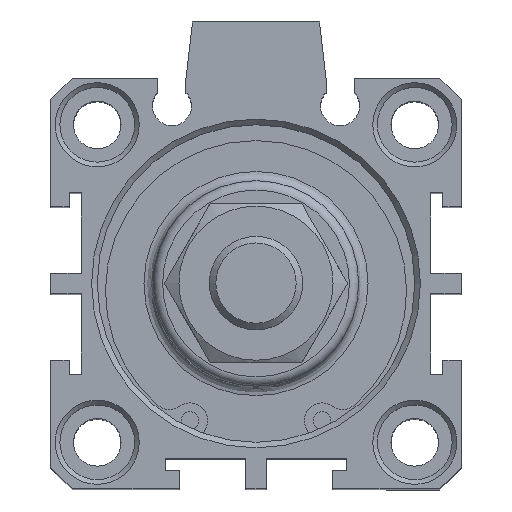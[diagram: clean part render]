
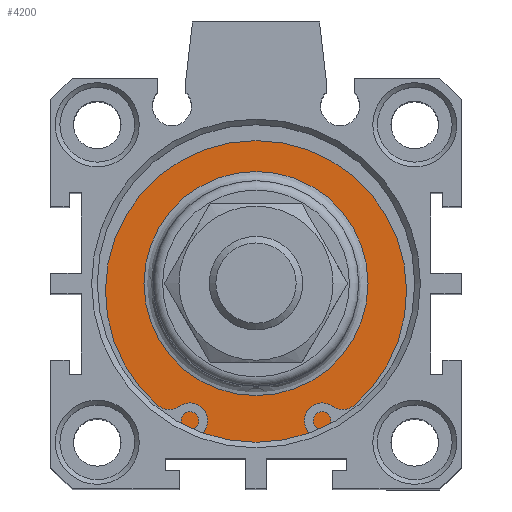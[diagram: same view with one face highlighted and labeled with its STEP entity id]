
A CAD part, top view. The second image highlights one B-rep face of the part: STEP entity #4200.
In plain terms, the highlighted planar face has unit normal (0, 0, 1).
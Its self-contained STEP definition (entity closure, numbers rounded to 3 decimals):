
#4149=CARTESIAN_POINT('',(2.273,12.598,60.8));
#4150=VERTEX_POINT('',#4149);
#4151=CARTESIAN_POINT('',(2.273,0.598,60.8));
#4152=DIRECTION('',(0.0,0.0,1.0));
#4153=DIRECTION('',(0.0,-1.0,0.0));
#4154=AXIS2_PLACEMENT_3D('',#4151,#4152,#4153);
#4155=CIRCLE('',#4154,12.);
#4156=EDGE_CURVE('',#4150,#4150,#4155,.T.);
#4181=CARTESIAN_POINT('',(2.273,14.598,60.8));
#4182=DIRECTION('',(0.0,0.0,1.0));
#4183=DIRECTION('',(1.0,0.0,0.0));
#4184=AXIS2_PLACEMENT_3D('',#4181,#4182,#4183);
#4185=PLANE('',#4184);
#4186=CARTESIAN_POINT('',(2.273,17.598,60.8));
#4187=VERTEX_POINT('',#4186);
#4188=CARTESIAN_POINT('',(2.273,0.598,60.8));
#4189=DIRECTION('',(0.0,0.0,-1.0));
#4190=DIRECTION('',(0.0,1.0,0.0));
#4191=AXIS2_PLACEMENT_3D('',#4188,#4189,#4190);
#4192=CIRCLE('',#4191,17.);
#4193=EDGE_CURVE('',#4187,#4187,#4192,.T.);
#4194=ORIENTED_EDGE('',*,*,#4193,.F.);
#4195=EDGE_LOOP('',(#4194));
#4196=FACE_OUTER_BOUND('',#4195,.T.);
#4197=ORIENTED_EDGE('',*,*,#4156,.F.);
#4198=EDGE_LOOP('',(#4197));
#4199=FACE_BOUND('',#4198,.T.);
#4200=ADVANCED_FACE('',(#4196,#4199),#4185,.T.);
